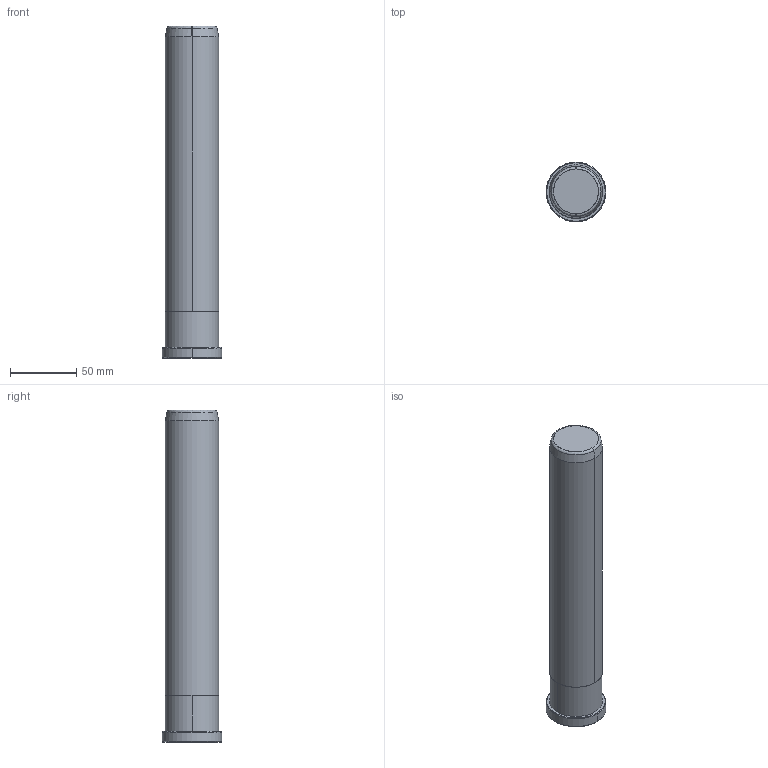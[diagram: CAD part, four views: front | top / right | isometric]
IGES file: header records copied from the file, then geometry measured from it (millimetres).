
Start section: START RECORD GO HERE.
Global section: file name: B80840250.igs; native system: DASSAULT SYSTEMES CATIA V5 R20 - www.3ds.com; preprocessor: CATIA Version 5 Release 20 ; author: Utente; organization: NB04-ASUS; date: 20200419.164523; units: millimetre
Bounding box: 45 x 45 x 250 mm (x, y, z)
Surface area: 34382 mm2 (no closed solid volume)
Topology: 0 solids, 0 shells, 20 faces, 80 edges, 80 vertices
Faces by surface type: revolution 16, plane 4
